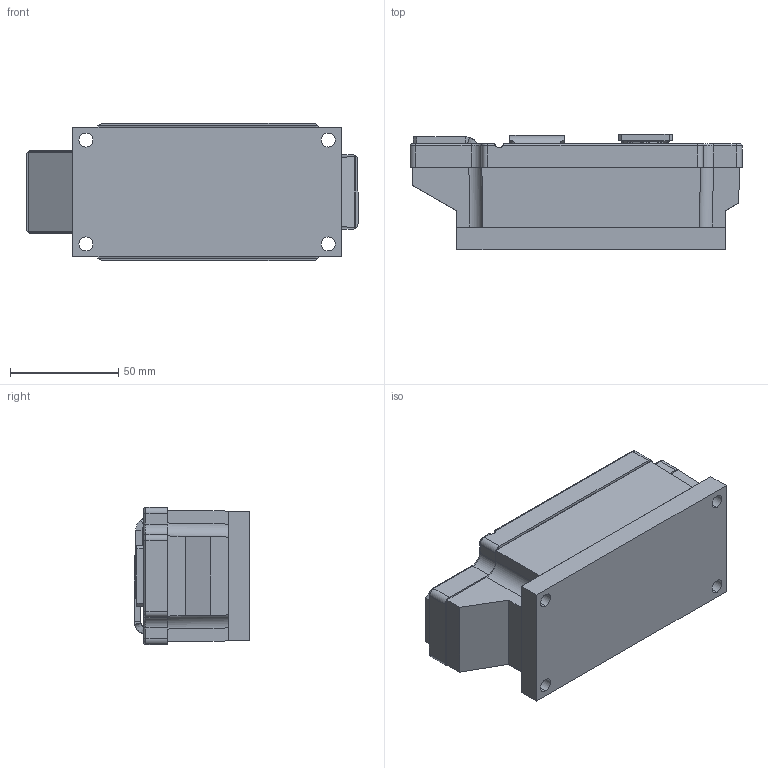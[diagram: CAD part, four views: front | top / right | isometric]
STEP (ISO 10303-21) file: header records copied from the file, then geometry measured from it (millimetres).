
FILE_DESCRIPTION (( 'STEP AP214' ), '1' );
FILE_NAME ('MTD5-T.STEP', '2021-02-08T06:28:37', ( '' ), ( '' ), 'SwSTEP 2.0', 'SolidWorks 2018', '' );
FILE_SCHEMA (( 'AUTOMOTIVE_DESIGN' ));
Length unit declared in the file: millimetre
Products named in the file (1): MTD5-T
Bounding box: 153.4 x 53.4 x 63.4 mm (x, y, z)
Volume: 157610.6 mm3; surface area: 85122.5 mm2
Topology: 14 solids, 14 shells, 544 faces, 1435 edges, 918 vertices
Faces by surface type: plane 356, cylinder 112, cone 48, bspline 16, torus 12
Entity records: 24323 total; most frequent: CARTESIAN_POINT 4801, ORIENTED_EDGE 2870, DIRECTION 2607, EDGE_CURVE 1435, LINE 1009, VECTOR 1009, VERTEX_POINT 918, AXIS2_PLACEMENT_3D 799
